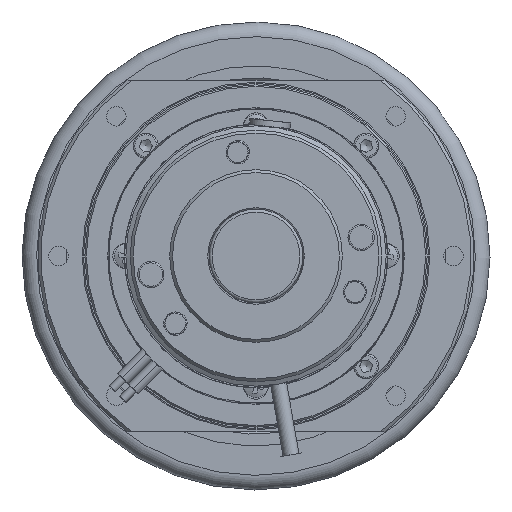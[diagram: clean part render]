
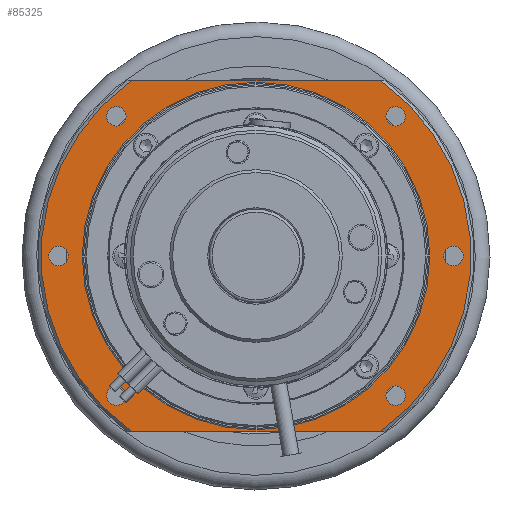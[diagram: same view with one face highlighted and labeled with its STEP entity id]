
A CAD part, left-side view. The second image highlights one B-rep face of the part: STEP entity #85325.
In plain terms, the highlighted planar face has unit normal (-1, 0, 0).
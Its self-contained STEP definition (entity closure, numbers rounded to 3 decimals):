
#1749=FACE_BOUND('',#11304,.T.);
#1750=FACE_BOUND('',#11305,.T.);
#1751=FACE_BOUND('',#11306,.T.);
#1752=FACE_BOUND('',#11307,.T.);
#1753=FACE_BOUND('',#11308,.T.);
#1754=FACE_BOUND('',#11309,.T.);
#1755=FACE_BOUND('',#11310,.T.);
#2632=PLANE('',#92319);
#6572=FACE_OUTER_BOUND('',#11303,.T.);
#11303=EDGE_LOOP('',(#62905,#62906,#62907,#62908));
#11304=EDGE_LOOP('',(#62909));
#11305=EDGE_LOOP('',(#62910));
#11306=EDGE_LOOP('',(#62911));
#11307=EDGE_LOOP('',(#62912));
#11308=EDGE_LOOP('',(#62913));
#11309=EDGE_LOOP('',(#62914));
#11310=EDGE_LOOP('',(#62915));
#16865=CIRCLE('',#92315,59.4);
#16869=CIRCLE('',#92320,73.5);
#16870=CIRCLE('',#92321,73.5);
#16871=CIRCLE('',#92322,3.324);
#16872=CIRCLE('',#92323,3.324);
#16873=CIRCLE('',#92324,3.324);
#16874=CIRCLE('',#92325,3.324);
#16875=CIRCLE('',#92326,3.324);
#16876=CIRCLE('',#92327,3.324);
#21174=LINE('',#141393,#28443);
#21175=LINE('',#141396,#28444);
#28443=VECTOR('',#107514,10.);
#28444=VECTOR('',#107517,10.);
#36891=VERTEX_POINT('',#141381);
#36894=VERTEX_POINT('',#141389);
#36895=VERTEX_POINT('',#141390);
#36896=VERTEX_POINT('',#141392);
#36897=VERTEX_POINT('',#141394);
#36898=VERTEX_POINT('',#141397);
#36899=VERTEX_POINT('',#141399);
#36900=VERTEX_POINT('',#141401);
#36901=VERTEX_POINT('',#141403);
#36902=VERTEX_POINT('',#141405);
#36903=VERTEX_POINT('',#141407);
#46428=EDGE_CURVE('',#36891,#36891,#16865,.T.);
#46432=EDGE_CURVE('',#36894,#36895,#16869,.T.);
#46433=EDGE_CURVE('',#36894,#36896,#21174,.T.);
#46434=EDGE_CURVE('',#36897,#36896,#16870,.T.);
#46435=EDGE_CURVE('',#36897,#36895,#21175,.T.);
#46436=EDGE_CURVE('',#36898,#36898,#16871,.T.);
#46437=EDGE_CURVE('',#36899,#36899,#16872,.T.);
#46438=EDGE_CURVE('',#36900,#36900,#16873,.T.);
#46439=EDGE_CURVE('',#36901,#36901,#16874,.T.);
#46440=EDGE_CURVE('',#36902,#36902,#16875,.T.);
#46441=EDGE_CURVE('',#36903,#36903,#16876,.T.);
#62905=ORIENTED_EDGE('',*,*,#46432,.F.);
#62906=ORIENTED_EDGE('',*,*,#46433,.T.);
#62907=ORIENTED_EDGE('',*,*,#46434,.F.);
#62908=ORIENTED_EDGE('',*,*,#46435,.T.);
#62909=ORIENTED_EDGE('',*,*,#46436,.T.);
#62910=ORIENTED_EDGE('',*,*,#46437,.T.);
#62911=ORIENTED_EDGE('',*,*,#46438,.T.);
#62912=ORIENTED_EDGE('',*,*,#46439,.T.);
#62913=ORIENTED_EDGE('',*,*,#46440,.T.);
#62914=ORIENTED_EDGE('',*,*,#46441,.T.);
#62915=ORIENTED_EDGE('',*,*,#46428,.F.);
#85325=ADVANCED_FACE('',(#6572,#1749,#1750,#1751,#1752,#1753,#1754,#1755),
#2632,.T.);
#92315=AXIS2_PLACEMENT_3D('',#141382,#107502,#107503);
#92319=AXIS2_PLACEMENT_3D('',#141388,#107510,#107511);
#92320=AXIS2_PLACEMENT_3D('',#141391,#107512,#107513);
#92321=AXIS2_PLACEMENT_3D('',#141395,#107515,#107516);
#92322=AXIS2_PLACEMENT_3D('',#141398,#107518,#107519);
#92323=AXIS2_PLACEMENT_3D('',#141400,#107520,#107521);
#92324=AXIS2_PLACEMENT_3D('',#141402,#107522,#107523);
#92325=AXIS2_PLACEMENT_3D('',#141404,#107524,#107525);
#92326=AXIS2_PLACEMENT_3D('',#141406,#107526,#107527);
#92327=AXIS2_PLACEMENT_3D('',#141408,#107528,#107529);
#107502=DIRECTION('center_axis',(-1.,0.,0.));
#107503=DIRECTION('ref_axis',(0.,-1.,0.));
#107510=DIRECTION('center_axis',(-1.,0.,0.));
#107511=DIRECTION('ref_axis',(0.,0.,
1.));
#107512=DIRECTION('center_axis',(1.,0.,0.));
#107513=DIRECTION('ref_axis',(0.,1.,0.));
#107514=DIRECTION('',(0.,-1.,0.));
#107515=DIRECTION('center_axis',(1.,0.,0.));
#107516=DIRECTION('ref_axis',(0.,-1.,0.));
#107517=DIRECTION('',(0.,1.,0.));
#107518=DIRECTION('center_axis',(1.,0.,0.));
#107519=DIRECTION('ref_axis',(0.,0.,
1.));
#107520=DIRECTION('center_axis',(1.,0.,0.));
#107521=DIRECTION('ref_axis',(0.,0.,
1.));
#107522=DIRECTION('center_axis',(1.,0.,0.));
#107523=DIRECTION('ref_axis',(0.,0.,
1.));
#107524=DIRECTION('center_axis',(1.,0.,0.));
#107525=DIRECTION('ref_axis',(0.,0.,
1.));
#107526=DIRECTION('center_axis',(1.,0.,0.));
#107527=DIRECTION('ref_axis',(0.,0.,
1.));
#107528=DIRECTION('center_axis',(1.,0.,0.));
#107529=DIRECTION('ref_axis',(0.,0.,
1.));
#141381=CARTESIAN_POINT('',(-78.,0.,-59.4));
#141382=CARTESIAN_POINT('Origin',(-78.,0.,0.));
#141388=CARTESIAN_POINT('Origin',(-78.,59.,0.));
#141389=CARTESIAN_POINT('',(-78.,42.453,-60.));
#141390=CARTESIAN_POINT('',(-78.,42.453,60.));
#141391=CARTESIAN_POINT('Origin',(-78.,0.,0.));
#141392=CARTESIAN_POINT('',(-78.,-42.453,-60.));
#141393=CARTESIAN_POINT('',(-78.,54.5,-60.));
#141394=CARTESIAN_POINT('',(-78.,-42.453,60.));
#141395=CARTESIAN_POINT('Origin',(-78.,0.,0.));
#141396=CARTESIAN_POINT('',(-78.,4.5,60.));
#141397=CARTESIAN_POINT('',(-78.,47.73,-51.053));
#141398=CARTESIAN_POINT('Origin',(-78.,47.73,-47.73));
#141399=CARTESIAN_POINT('',(-78.,-67.5,-3.324));
#141400=CARTESIAN_POINT('Origin',(-78.,-67.5,0.));
#141401=CARTESIAN_POINT('',(-78.,-47.73,-51.053));
#141402=CARTESIAN_POINT('Origin',(-78.,-47.73,-47.73));
#141403=CARTESIAN_POINT('',(-78.,-47.73,44.406));
#141404=CARTESIAN_POINT('Origin',(-78.,-47.73,47.73));
#141405=CARTESIAN_POINT('',(-78.,67.5,-3.323));
#141406=CARTESIAN_POINT('Origin',(-78.,67.5,0.));
#141407=CARTESIAN_POINT('',(-78.,47.73,44.406));
#141408=CARTESIAN_POINT('Origin',(-78.,47.73,47.73));
